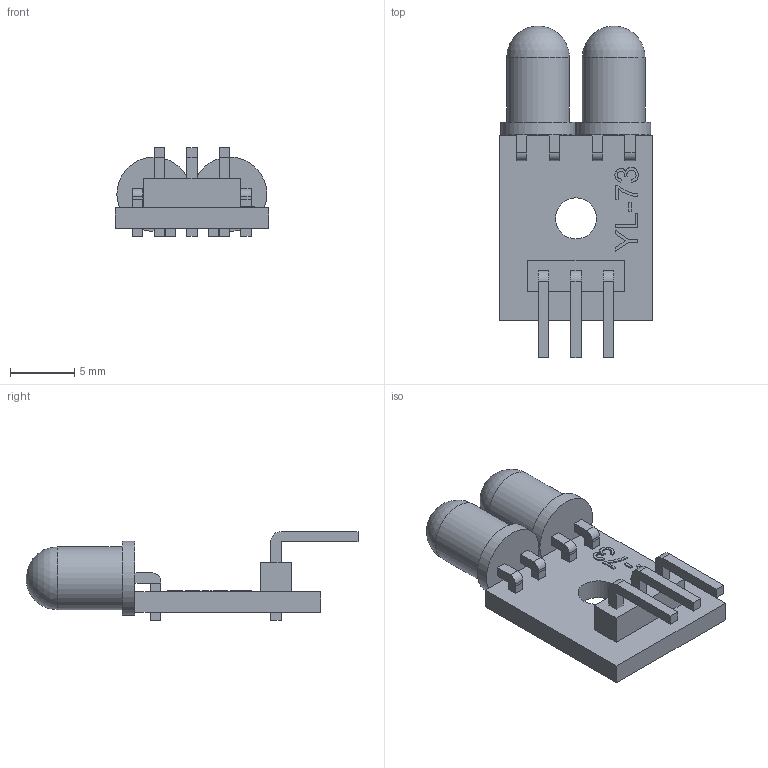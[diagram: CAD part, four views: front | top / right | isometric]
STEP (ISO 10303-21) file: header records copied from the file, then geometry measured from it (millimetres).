
FILE_DESCRIPTION(/* description */ (''),/* implementation_level */ '2;1');
FILE_NAME(/* name */ 'X:/Blandat/3d Cad/Fusion 360/ZeroBot/IR YL-73.step',/* time_stamp */ '2017-07-16T16:31:50+02:00',/* author */ (''),/* organization */ (''),/* preprocessor_version */ 'ST-DEVELOPER v16.13',/* originating_system */ 'Autodesk Translation Framework v6.1.1.50',/* authorisation */ '');
FILE_SCHEMA (('AUTOMOTIVE_DESIGN { 1 0 10303 214 3 1 1 }'));
Length unit declared in the file: millimetre
Products named in the file (1): IR YL-73 v3
Bounding box: 12 x 25.9 x 6.93 mm (x, y, z)
Volume: 644.8 mm3; surface area: 1071.2 mm2
Topology: 20 solids, 20 shells, 190 faces, 450 edges, 300 vertices
Faces by surface type: plane 141, bspline 35, cylinder 12, sphere 2
Full cylindrical faces by diameter (mm): 3.2 x1, 4.9 x2, 5.8 x2
Entity records: 5722 total; most frequent: CARTESIAN_POINT 1521, ORIENTED_EDGE 878, DIRECTION 705, EDGE_CURVE 439, LINE 345, VECTOR 345, VERTEX_POINT 296, EDGE_LOOP 207
